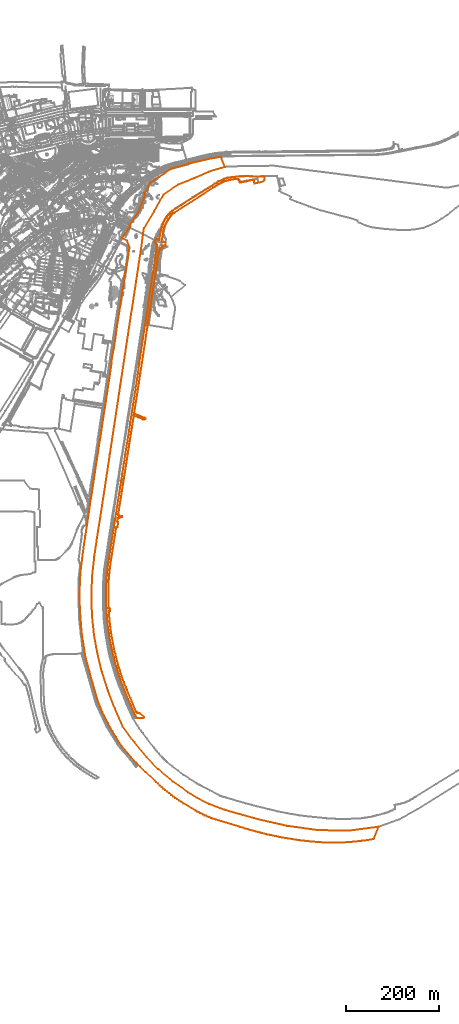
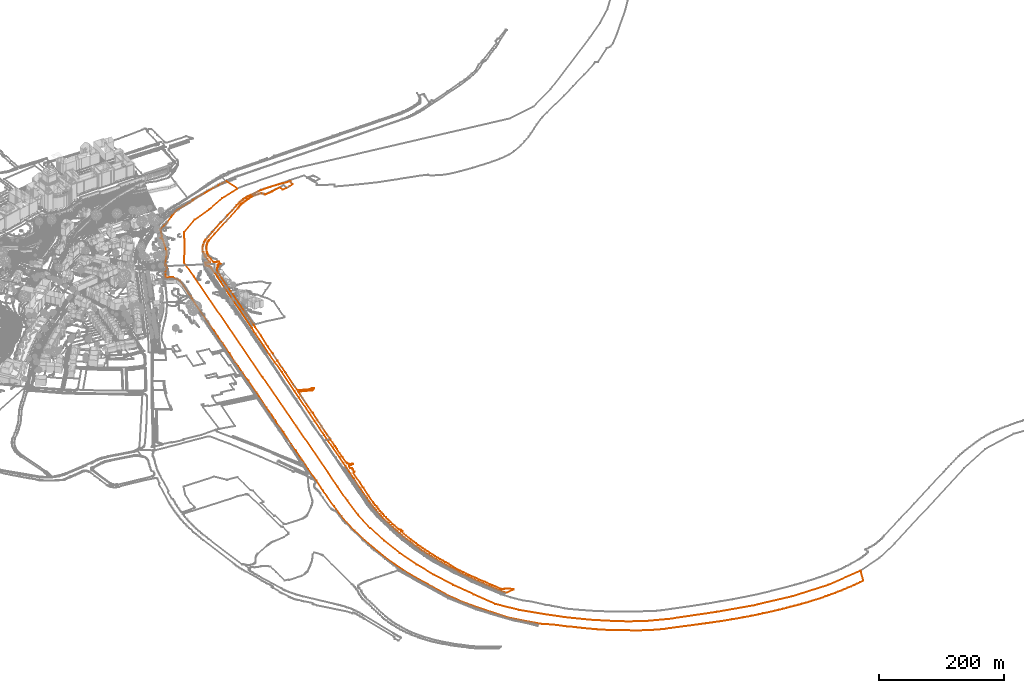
# Not in any storey, part 196 of 477: 1 civil element, 1 geographic element.
"""IFC4 model written with IfcOpenShell, lengths in metres."""

import ifcopenshell
import ifcopenshell.guid

model = None  # the IFC model being written
_history = None  # IfcOwnerHistory: only IFC2X3 demands one
_inside = {}  # id of a spatial element -> (the spatial element, [elements in it])
_under = {}  # id of a project, library or spatial element -> (it, [spatial elements below it])
_declared = {}  # id of a project -> (the project, [libraries it declares])
_typed = {}  # id of a type object -> (the type object, [elements of that type])
_made_of = {}  # id of a material, layer set ... -> (it, [elements and type objects made of it])


def new_model(schema):
    """Start an empty IFC model of exactly this schema.

    Asked for "IFC4X3", IfcOpenShell would pick the latest addendum, in which some entities
    have other attributes; the version numbers below select the first issue.
    IFC2X3 requires an IfcOwnerHistory on every rooted entity: one is made here for all.
    """
    global model, _history
    if schema == "IFC4X3":
        model = ifcopenshell.file(schema_version=(4, 3, 0, 0))
    else:
        model = ifcopenshell.file(schema=schema)
    _inside.clear()
    _under.clear()
    _declared.clear()
    _typed.clear()
    _made_of.clear()
    _history = None
    if model.schema == "IFC2X3":
        org = make("IfcOrganization", Name="unknown")
        user = make(
            "IfcPersonAndOrganization",
            ThePerson=make("IfcPerson", FamilyName="unknown"),
            TheOrganization=org,
        )
        app = make(
            "IfcApplication",
            ApplicationDeveloper=org,
            Version="unknown",
            ApplicationFullName="unknown",
            ApplicationIdentifier="unknown",
        )
        _history = make(
            "IfcOwnerHistory",
            OwningUser=user,
            OwningApplication=app,
            ChangeAction="ADDED",
            CreationDate=0,
        )
    return model


def make(cls, **values):
    """One entity of the class cls with the attributes given. An attribute that is None is left unset."""
    return model.create_entity(
        cls, **{name: value for name, value in values.items() if value is not None}
    )


def entity(cls, *values):
    """Any entity or typed value of the class cls, its attributes in the order of the schema. None: left unset."""
    e = model.create_entity(cls)
    for i, value in enumerate(values):
        if value is not None:
            e[i] = value
    return e


def rooted(cls, **values):
    """An entity with a GlobalId (a new one), such as an element, a storey or a relation."""
    return make(cls, GlobalId=ifcopenshell.guid.new(), OwnerHistory=_history, **values)


def si_unit(unit_type, name, prefix=None):
    """IfcSIUnit, for example si_unit("LENGTHUNIT", "METRE", prefix="MILLI")."""
    return make("IfcSIUnit", UnitType=unit_type, Prefix=prefix, Name=name)


def assignment(units):
    """IfcUnitAssignment: the units of a project."""
    return None if units is None else make("IfcUnitAssignment", Units=units)


def point(xyz):
    """IfcCartesianPoint."""
    return None if xyz is None else make("IfcCartesianPoint", Coordinates=xyz)


def direction(xyz):
    """IfcDirection."""
    return None if xyz is None else make("IfcDirection", DirectionRatios=xyz)


def frame(location, z_axis=None, x_axis=None):
    """IfcAxis2Placement3D, a coordinate frame: its origin and axes. An axis left out is left unset."""
    return make(
        "IfcAxis2Placement3D",
        Location=point(location),
        Axis=direction(z_axis),
        RefDirection=direction(x_axis),
    )


def origin_with_axes():
    """The frame at (0, 0, 0) with the z axis (0, 0, 1) and the x axis (1, 0, 0) written out."""
    return frame((0.0, 0.0, 0.0), z_axis=(0.0, 0.0, 1.0), x_axis=(1.0, 0.0, 0.0))


def place(relative_to, where):
    """IfcLocalPlacement: puts the frame where relative to a parent placement (None: the world)."""
    return make(
        "IfcLocalPlacement", PlacementRelTo=relative_to, RelativePlacement=where
    )


def context(
    kind, dimensions, precision=None, world=None, true_north=None, identifier=None
):
    """IfcGeometricRepresentationContext, for example the 3D "Model" context."""
    return make(
        "IfcGeometricRepresentationContext",
        ContextIdentifier=identifier,
        ContextType=kind,
        CoordinateSpaceDimension=dimensions,
        Precision=precision,
        WorldCoordinateSystem=world,
        TrueNorth=true_north,
    )


def subcontext(parent, identifier, kind, view, scale=None):
    """IfcGeometricRepresentationSubContext, for example "Body" below "Model"."""
    return make(
        "IfcGeometricRepresentationSubContext",
        ContextIdentifier=identifier,
        ContextType=kind,
        ParentContext=parent,
        TargetScale=scale,
        TargetView=view,
    )


def project(units=None, contexts=None):
    """IfcProject with its units and contexts."""
    return rooted(
        "IfcProject",
        Name="project",
        RepresentationContexts=contexts,
        UnitsInContext=assignment(units),
    )


def spatial(cls, under=None, at=None, **own):
    """A site, building, storey or space (cls), placed at a placement, below another one or the project."""
    s = rooted(cls, ObjectPlacement=at, **own)
    if under is not None:
        _under.setdefault(under.id(), (under, []))[1].append(s)
    return s


def shape(context_of_items, identifier, shape_type, items):
    """IfcShapeRepresentation: the items that make up one representation, for example the "Body"."""
    return make(
        "IfcShapeRepresentation",
        ContextOfItems=context_of_items,
        RepresentationIdentifier=identifier,
        RepresentationType=shape_type,
        Items=items,
    )


def made_of(thing, what):
    """Note that an element or type object is made of a material, layer set ...; save() writes the relation."""
    if what is not None:
        _made_of.setdefault(what.id(), (what, []))[1].append(thing)
    return thing


def element(
    cls,
    number,
    at=None,
    inside=None,
    cuts=None,
    type_object=None,
    material=None,
    context=None,
    identifier="Body",
    shape_type=None,
    held_by="IfcProductDefinitionShape",
    body=None,
    shapes=None,
    **own,
):
    """One element of the class cls, such as IfcWall. Its Tag is "e" and its number.

    at: its placement. inside: the storey or other place that contains it. cuts: it is an
    opening in that element (IfcRelVoidsElement). A single representation is given by context,
    identifier, shape_type and body (its items); several are given by shapes. held_by: the class
    of the entity that holds the representations. save() writes the other relations.
    """
    e = rooted(cls, Tag="e%d" % number, ObjectPlacement=at, **own)
    if body is not None:
        shapes = [shape(context, identifier, shape_type, body)]
    if shapes is not None:
        e.Representation = make(held_by, Representations=shapes)
    if inside is not None:
        _inside.setdefault(inside.id(), (inside, []))[1].append(e)
    if cuts is not None:
        rooted(
            "IfcRelVoidsElement", RelatingBuildingElement=cuts, RelatedOpeningElement=e
        )
    if type_object is not None:
        _typed.setdefault(type_object.id(), (type_object, []))[1].append(e)
    return made_of(e, material)


def aggregate(whole, parts):
    """IfcRelAggregates: a whole, such as a stair, and the parts it consists of."""
    return rooted("IfcRelAggregates", RelatingObject=whole, RelatedObjects=parts)


def save(model, path):
    """Write the relations noted so far, then the file.

    IfcRelAggregates (storeys below a building ...), IfcRelContainedInSpatialStructure (elements
    in a storey), IfcRelDefinesByType, IfcRelAssociatesMaterial and IfcRelDeclares: one each for
    every whole, place, type object, material and project.
    """
    for whole, parts in _under.values():
        aggregate(whole, parts)
    for where, things in _inside.values():
        rooted(
            "IfcRelContainedInSpatialStructure",
            RelatedElements=things,
            RelatingStructure=where,
        )
    for kind, things in _typed.values():
        rooted("IfcRelDefinesByType", RelatedObjects=things, RelatingType=kind)
    for what, things in _made_of.values():
        rooted("IfcRelAssociatesMaterial", RelatedObjects=things, RelatingMaterial=what)
    for by, libraries in _declared.values():
        rooted("IfcRelDeclares", RelatingContext=by, RelatedDefinitions=libraries)
    model.write(path)


model = new_model("IFC4")

# Units and contexts
model_context = context("Model", 3, precision=1e-05, world=origin_with_axes())
body_context = subcontext(model_context, "Body", "Model", "MODEL_VIEW")
ifc_project = project(units=[si_unit("AREAUNIT", "SQUARE_METRE"), si_unit("LENGTHUNIT", "METRE")], contexts=[model_context])

# Sites
site_1_placement = place(None, origin_with_axes())
site_1 = spatial("IfcSite", under=ifc_project, at=site_1_placement, Name="Topoexport Site")
site_2_placement = place(site_1_placement, origin_with_axes())
site_2 = spatial("IfcSite", under=site_1, at=site_2_placement, Name="TPX_ROADS_OUTLINES")

# Civil element
civil_element_placement = place(site_2_placement, frame((573.5897320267, -619.0162839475, 501.997321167), z_axis=(0.0, 0.0, 1.0), x_axis=(1.0, 0.0, 0.0)))
element("IfcCivilElement", 1, at=civil_element_placement, inside=site_2, Name="Roads Outline 143", ObjectType="ROAD", context=body_context, shape_type="GeometricCurveSet", body=[
    entity("IfcGeometricCurveSet", [entity("IfcIndexedPolyCurve", entity("IfcCartesianPointList3D", [[0.0, 0.0, 0.0], [0.0410000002, 5.8499999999, -8.13293e-05], [0.1540000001, 11.7, -0.000305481], [0.341, 17.547, -0.0006764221], [0.6010000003, 23.392, -0.0008482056], [0.9339999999, 29.233, 0.007302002], [1.3399999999, 35.0689999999, 0.0172388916], [1.8190000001, 40.8999999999, 0.0158855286], [2.392, 46.7929999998, -0.002527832], [3.0249999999, 52.6809999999, -0.0312844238], [3.7179999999, 58.561, -0.0631298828], [4.5320000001, 64.8839999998, -0.0813634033], [5.415, 71.1969999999, -0.0836525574], [6.3680000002, 77.5, -0.0780847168], [9.7790000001, 99.273, -0.0294494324], [14.4390000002, 128.9029999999, 0.11870401], [16.8360000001, 144.0719999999, 0.165008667], [18.2570000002, 152.9009999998, 0.1617746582], [19.4530000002, 160.605, 0.1669836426], [20.1600000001, 165.361, 0.1602598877], [21.7719999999, 175.2929999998, 0.1550618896], [24.3990000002, 192.037, 0.3092662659], [28.9380000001, 220.986, -0.3852392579], [34.9050000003, 259.0859999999, -1.1995194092], [38.1949999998, 280.027, -1.1660679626], [41.4619999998, 300.9989999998, -1.1446589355], [45.094, 324.0759999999, -1.145413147], [52.3020000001, 370.0600000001, -1.1991660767], [55.2510000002, 389.075, -1.2270939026], [63.9700000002, 444.6509999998, -1.2458919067], [68.5819999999, 475.5319999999, -1.1728952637], [71.5929999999, 497.726, -1.1580406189], [75.5040000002, 523.4849999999, -1.212526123], [80.767, 558.3969999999, -0.9224345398], [83.0410000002, 573.48, 0.2556228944], [90.8939999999, 625.655, 0.6760860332], [95.2540000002, 654.5259999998, 0.6879911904], [103.3620000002, 708.2419999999, 1.2711830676], [105.4909999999, 722.203, 1.4434039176], [109.4199999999, 748.425, 2.109050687], [109.5150000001, 749.257, 2.1340103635], [109.5389999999, 750.094, 2.1757841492], [109.4890000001, 750.929, 2.2135582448], [109.3670000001, 751.7579999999, 2.2062970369], [109.1740000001, 752.5719999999, 2.2427853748], [108.9109999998, 753.3669999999, 2.2692409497], [108.5800000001, 754.1359999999, 2.2827326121], [108.1920000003, 754.8589999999, 2.3111848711], [107.7439999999, 755.5459999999, 2.3176727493], [107.2390000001, 756.193, 2.2955873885], [106.6809999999, 756.7949999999, 2.2956379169], [106.074, 757.3469999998, 2.3222207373], [105.4220000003, 757.845, 2.3560484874], [104.73, 758.2859999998, 2.3865372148], [104.2570000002, 758.5179999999, 2.4408798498], [107.8170000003, 765.692, 2.3844414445], [110.6239999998, 764.3019999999, 2.3350170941], [113.4560000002, 762.9649999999, 2.4197342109], [114.0219999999, 762.7039999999, 2.4177774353], [114.5899999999, 762.446, 2.4327546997], [114.9939999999, 764.9989999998, 2.4350567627], [116.3850000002, 773.7889999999, 1.9524562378], [117.682, 781.9889999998, 0.0037757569], [118.0890000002, 783.138, -0.3500135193], [118.8769999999, 785.6899999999, -0.9480174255], [119.7000000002, 788.23, -1.4650847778], [120.5589999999, 790.7589999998, -1.4423878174], [122.909, 797.149, -1.2785430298], [121.8990000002, 797.5589999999, -1.2556331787], [122.7570000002, 799.527, -1.1939007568], [123.6740000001, 801.4679999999, -1.16485849], [124.6490000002, 803.3799999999, -1.1405163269], [125.7409999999, 805.371, -1.0775633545], [126.898, 807.325, -1.1036747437], [128.1189999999, 809.24, -1.1132006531], [129.2119999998, 810.8529999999, -1.1198261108], [130.3560000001, 812.4299999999, -1.1127552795], [131.5490000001, 813.97, -1.1029463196], [133.378, 816.1029999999, -1.1606710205], [135.2590000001, 818.1899999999, -1.2473023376], [136.6090000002, 819.632, -1.2739039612], [137.986, 821.0489999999, -1.3131595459], [139.389, 822.4399999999, -1.1958796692], [140.824, 823.811, -1.1896339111], [142.284, 825.1539999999, -1.2599082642], [143.77, 826.47, -1.2740369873], [151.5210000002, 831.456, -1.1886412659], [162.3840000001, 838.4639999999, -1.2325555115], [188.202, 855.1169999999, -0.9619796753], [207.8390000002, 867.0659999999, -1.0972337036], [220.3480000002, 875.0389999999, -1.1599669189], [234.156, 883.787, -1.0462805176], [238.6690000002, 886.5629999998, -1.1380288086], [241.5580000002, 888.1599999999, -1.1907799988], [244.4849999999, 889.689, -1.2410990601], [247.4470000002, 891.1469999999, -1.2731512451], [249.4870000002, 892.102, -1.2718339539], [251.5410000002, 893.024, -1.269273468], [253.6099999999, 893.9129999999, -1.2668046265], [255.602, 894.611, -1.2648662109], [257.6120000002, 895.2519999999, -1.2630860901], [259.6400000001, 895.8370000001, -1.2614614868], [261.6830000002, 896.365, -1.2599951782], [263.7400000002, 896.8359999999, -1.2592282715], [265.8310000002, 897.253, -1.2595845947], [267.9330000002, 897.6099999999, -1.2598896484], [270.0440000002, 897.909, -1.146895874], [283.5550000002, 899.189, -0.3240516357], [287.2260000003, 899.429, -0.1200867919], [290.8999999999, 899.621, 0.0430850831], [294.5759999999, 899.7649999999, 0.1246668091], [298.0300000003, 899.858, 0.1550603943], [301.4849999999, 899.909, 0.1717278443], [304.9410000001, 899.919, 0.1749959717], [320.9610000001, 899.5, -0.0597471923], [341.5800000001, 898.6869999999, -0.7506781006], [341.219, 895.588, -1.2621529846], [340.5989999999, 890.264, -1.2596468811], [333.9029999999, 887.1599999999, -1.1577455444], [319.4550000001, 884.5119999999, -1.070242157], [317.9989999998, 892.453, -1.2708591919], [303.2439999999, 889.7479999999, -1.2430022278], [303.338, 889.2339999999, -1.2261594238], [301.8330000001, 888.9679999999, -1.2174248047], [299.1239999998, 888.4889999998, -1.2016536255], [299.1499999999, 888.3399999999, -1.1967290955], [290.2209999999, 886.7919999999, -1.1455941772], [290.1940000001, 886.9399999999, -1.1504811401], [288.105, 886.5529999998, -1.1376983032], [287.6310000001, 889.1269999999, -1.222645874], [287.48, 889.7749999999, -1.2438731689], [287.2540000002, 890.3999999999, -1.264033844], [286.9569999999, 890.9949999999, -1.2731976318], [286.5929999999, 891.5519999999, -1.2730276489], [286.1660000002, 892.0619999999, -1.2719450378], [285.6830000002, 892.5189999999, -1.2706759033], [285.1499999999, 892.916, -1.2695733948], [284.6140000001, 893.2279999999, -1.2687069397], [284.0470000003, 893.48, -1.2680071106], [283.4560000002, 893.6679999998, -1.2674850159], [282.8480000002, 893.7919999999, -1.2671406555], [282.23, 893.848, -1.2669851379], [280.074, 893.7989999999, -1.2671212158], [277.9210000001, 893.689, -1.2674266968], [275.7719999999, 893.5179999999, -1.2679015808], [273.628, 893.2849999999, -1.268548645], [271.4920000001, 892.9919999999, -1.2693623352], [269.3650000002, 892.639, -1.2703426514], [267.2489999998, 892.2249999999, -1.2714923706], [265.0959999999, 891.7479999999, -1.2728170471], [262.9590000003, 891.206, -1.2731332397], [260.8399999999, 890.5989999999, -1.2704530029], [258.7400000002, 889.9269999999, -1.2487762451], [256.6609999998, 889.192, -1.2247802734], [254.6060000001, 888.3939999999, -1.1985138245], [252.2090000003, 887.4029999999, -1.1657694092], [249.8340000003, 886.3589999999, -1.131286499], [247.483, 885.263, -1.0950631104], [245.1570000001, 884.1139999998, -1.0570880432], [242.8569999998, 882.915, -1.0174604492], [240.5840000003, 881.6639999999, -1.0109006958], [238.068, 880.2, -1.0438580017], [235.5899999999, 878.6739999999, -1.0781799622], [233.1499999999, 877.0870000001, -1.1138922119], [230.75, 875.4399999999, -1.1509478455], [163.912, 832.6459999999, -1.1607576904], [147.3680000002, 822.0529999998, -1.2643203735], [146.2390000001, 821.189, -1.316645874], [145.1359999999, 820.291, -1.2924466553], [144.0600000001, 819.3599999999, -1.2704425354], [142.702, 818.098, -1.2446042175], [141.395, 816.784, -1.1942459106], [140.142, 815.419, -1.1261744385], [138.943, 814.004, -1.102297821], [137.8020000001, 812.544, -1.1121116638], [136.7200000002, 811.0389999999, -1.1191846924], [135.477, 809.321, -1.1136035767], [134.2880000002, 807.5659999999, -1.1048735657], [133.1540000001, 805.774, -1.0748396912], [132.0759999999, 803.9479999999, -1.1199644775], [131.0550000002, 802.0899999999, -1.1634091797], [130.0920000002, 800.2009999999, -1.1780250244], [129.1880000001, 798.2830000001, -1.2281279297], [128.344, 796.338, -1.335692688], [127.5600000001, 794.368, -1.4155076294], [126.7600000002, 792.3909999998, -1.4293311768], [126.0109999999, 790.395, -1.4462446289], [125.3119999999, 788.3799999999, -1.4648375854], [124.665, 786.3489999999, -1.145206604], [124.0699999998, 784.301, -0.5857870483], [123.588, 782.4839999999, -0.16734729], [123.148, 780.6569999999, 0.5161004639], [121.7630000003, 772.49, 2.0172010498], [119.648, 760.2689999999, 2.5392124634], [119.7999999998, 760.2069999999, 2.5414129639], [121.2710000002, 759.6369999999, 2.5594003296], [122.7570000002, 759.1099999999, 2.5544629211], [124.2590000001, 758.6269999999, 2.5519647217], [125.642, 758.2239999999, 2.5618035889], [127.0350000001, 757.8569999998, 2.5707635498], [128.4369999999, 757.5279999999, 2.5667911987], [128.0470000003, 750.4790000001, 2.3223831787], [126.929, 750.639, 2.3289310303], [125.8149999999, 750.8289999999, 2.3351682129], [125.1680000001, 750.9129999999, 2.3376958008], [124.5159999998, 750.932, 2.3382675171], [123.8659999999, 750.885, 2.3368532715], [123.2999999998, 750.7879999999, 2.3339345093], [122.7450000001, 750.6409999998, 2.3290128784], [122.2060000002, 750.4449999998, 2.3209917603], [121.8810000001, 750.2209999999, 2.3118247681], [121.5929999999, 749.953, 2.3008571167], [121.3459999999, 749.645, 2.2887741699], [121.1469999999, 749.3049999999, 2.2790830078], [121.0, 748.939, 2.2686507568], [120.9070000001, 748.5559999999, 2.2580857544], [120.8710000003, 748.159, 2.2478360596], [120.8930000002, 747.7619999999, 2.2375863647], [120.9730000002, 747.372, 2.2247007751], [121.1099999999, 746.9979999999, 2.2117007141], [121.301, 746.648, 2.199402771], [120.4539999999, 746.1879999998, 2.1818551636], [119.639, 745.675, 2.1624425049], [118.8569999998, 745.111, 2.1482943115], [118.1129999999, 744.4989999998, 2.1257875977], [117.409, 743.841, 2.0842409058], [116.747, 743.1399999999, 2.037007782], [116.1320000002, 742.399, 1.9905106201], [115.5419999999, 741.5859999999, 1.9396286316], [115.0070000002, 740.7349999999, 1.8323966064], [114.5290000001, 739.851, 1.8181842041], [114.1099999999, 738.9379999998, 1.7713930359], [113.753, 737.9989999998, 1.749824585], [113.4580000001, 737.0379999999, 1.7677796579], [112.9390000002, 733.5989999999, 1.5509626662], [111.514, 724.1439999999, 2.0616460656], [110.1920000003, 715.3599999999, 1.4687576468], [105.6639999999, 685.3639999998, 0.9172089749], [104.6970000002, 679.1369999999, 0.7988807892], [103.2579999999, 669.5989999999, 0.7444401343], [89.7140000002, 579.9009999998, 0.6971032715], [88.591, 572.4679999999, 0.7959167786], [84.8020000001, 547.3899999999, 0.8038508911], [80.372, 518.121, -1.0300216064], [77.3659999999, 498.24, -1.1571352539], [77.3190000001, 497.8689999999, -1.1585036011], [76.9369999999, 495.392, -1.169625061], [74.1409999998, 477.0989999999, -1.1983355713], [73.9569999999, 476.3689999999, -1.1967633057], [73.8280000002, 475.628, -1.1956610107], [73.7510000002, 475.135, -1.1950030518], [68.645, 442.2919999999, -1.1693777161], [60.3100000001, 388.8659999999, -1.1988422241], [70.929, 384.6539999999, -1.1361645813], [79.7829999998, 381.0209999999, -1.0580264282], [80.2149999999, 380.8699999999, -1.0374863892], [80.6639999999, 380.781, -0.9784326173], [81.1210000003, 380.754, -0.729975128], [81.577, 380.79, -0.4820613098], [82.0240000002, 380.889, -0.2661973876], [82.4530000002, 381.0489999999, -0.0596835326], [83.531, 380.365, 0.52638797], [85.2110000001, 378.5249999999, 0.8216872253], [83.8769999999, 377.4129999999, 0.6262721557], [83.2949999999, 377.121, 0.3959786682], [82.6830000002, 376.899, 0.0577986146], [82.0490000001, 376.7489999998, -0.2541627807], [81.4440000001, 376.676, -0.5543695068], [80.8340000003, 376.6699999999, -0.8860086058], [80.227, 376.7290000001, -1.0369158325], [79.6310000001, 376.8540000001, -1.065253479], [79.051, 377.0419999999, -1.0933220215], [70.176, 380.6429999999, -1.1213820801], [59.702, 384.9080000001, -1.2032767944], [58.378, 376.48, -1.2129336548], [50.0800000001, 323.379, -1.178107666], [49.6749999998, 320.811, -1.1742638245], [46.3620000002, 299.7949999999, -1.1597669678], [43.7820000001, 283.2759999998, -1.1347161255], [39.872, 258.486, -1.1550646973], [38.1099999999, 247.2120000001, -1.1666256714], [37.3769999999, 242.52, -1.172388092], [36.0279999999, 233.8899999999, -1.1878790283], [34.5490000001, 224.429, -1.202504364], [33.8670000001, 220.0659999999, -1.2032744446], [33.1129999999, 215.23, -1.1986029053], [31.2590000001, 203.3319999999, -1.1782372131], [29.3960000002, 191.3769999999, -0.603253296], [29.2859999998, 190.689, -0.5508918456], [26.3820000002, 172.48, 0.3594289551], [26.344, 172.004, 0.358730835], [26.3670000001, 171.5259999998, 0.3591533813], [26.452, 171.0559999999, 0.3607149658], [26.5980000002, 170.601, 0.362111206], [26.801, 170.1679999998, 0.3397346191], [26.8640000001, 170.0589999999, 0.3327901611], [26.9300000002, 169.9509999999, 0.3255150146], [27.057, 169.773, 0.3115158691], [27.2050000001, 169.612, 0.2952019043], [27.6180000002, 169.2489999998, 0.2388354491], [28.0720000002, 168.9379999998, 0.024720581], [28.5610000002, 168.6839999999, -0.2059009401], [29.0759999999, 168.4909999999, -0.4509290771], [29.6099999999, 168.361, -0.7051214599], [30.1570000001, 168.2959999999, -0.9655340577], [30.7069999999, 168.298, -1.1720548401], [34.574, 168.4609999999, -1.2024761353], [34.6180000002, 166.112, -1.2021820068], [30.9550000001, 165.8019999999, -1.174832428], [28.5150000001, 165.0419999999, -0.184206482], [28.4569999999, 165.1769999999, -0.1568526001], [27.6680000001, 164.79, 0.2152545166], [27.0329999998, 164.4479999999, 0.314161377], [26.423, 164.0619999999, 0.3601821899], [26.2779999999, 163.9609999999, 0.3575183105], [26.1350000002, 163.8569999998, 0.3548911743], [25.787, 163.564, 0.3484978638], [25.4789999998, 163.2290000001, 0.3427163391], [25.2149999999, 162.8589999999, 0.3375681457], [24.9989999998, 162.4579999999, 0.3333559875], [24.8340000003, 162.034, 0.3301383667], [24.7239999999, 161.5929999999, 0.3279932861], [23.8500000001, 156.98, 0.2625724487], [25.926, 155.291, 0.3510515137], [25.8280000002, 154.727, 0.3492510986], [25.5, 152.865, 0.3431258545], [25.4700000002, 152.561, 0.3425408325], [25.4870000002, 152.257, 0.342872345], [25.5499999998, 151.9579999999, 0.3441008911], [25.6570000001, 151.673, 0.3461095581], [25.6430000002, 151.443, 0.345852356], [24.5660000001, 144.5899999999, 0.3234700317], [23.8489999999, 144.6499999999, 0.2624873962], [23.4619999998, 144.645, 0.2350630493], [23.0830000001, 144.5659999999, 0.219344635], [22.727, 144.415, 0.2045801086], [22.406, 144.1979999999, 0.1890565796], [22.1329999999, 143.923, 0.1744184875], [21.9190000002, 143.601, 0.1629439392], [21.77, 143.2439999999, 0.1549546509], [21.7000000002, 142.9299999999, 0.151201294], [17.1189999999, 113.9239999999, 0.1629618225], [14.7859999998, 99.1699999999, 0.1251040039], [11.2280000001, 76.5919999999, 0.0355792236], [8.5699999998, 57.5649999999, -0.0839882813], [8.0329999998, 53.1909999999, -0.0857254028], [7.5410000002, 48.8119999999, -0.0866614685], [7.094, 44.4279999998, -0.0818733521], [6.6920000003, 40.04, -0.0775672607], [6.3020000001, 35.21, -0.0785741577], [5.966, 30.375, -0.0810658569], [5.6839999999, 25.5379999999, -0.0831571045], [5.4569999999, 20.6969999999, -0.0837051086], [5.2850000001, 15.8540000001, -0.0834898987], [5.128, 10.517, -0.083293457], [5.0260000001, 5.1779999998, -0.0831658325], [4.9789999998, -0.1610000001, -0.0831070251], [4.986, -5.5010000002, -0.0831157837], [5.0690000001, -11.3030000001, -0.083219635], [5.2230000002, -17.1030000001, -0.083412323], [5.4479999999, -22.9000000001, -0.0836938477], [5.7430000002, -28.6950000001, -0.082719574], [5.7800000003, -28.933, -0.0824451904], [5.8650000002, -29.159, -0.0818148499], [5.9930000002, -29.3630000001, -0.0808656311], [6.1600000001, -29.537, -0.0796271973], [6.6210000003, -29.9340000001, -0.0768067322], [6.8990000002, -30.1400000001, -0.0797845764], [7.202, -30.307, -0.0830302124], [7.5260000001, -30.4300000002, -0.0865007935], [8.5300000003, -30.733, -0.0841176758], [8.9109999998, -35.7180000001, -0.0688387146], [7.98, -35.5800000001, -0.0858968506], [7.6400000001, -35.567, -0.0869967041], [7.3059999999, -35.629, -0.0841442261], [6.9930000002, -35.7620000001, -0.0807914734], [6.7170000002, -35.96, -0.0778350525], [6.4900000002, -36.2140000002, -0.0771799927], [6.3250000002, -36.5110000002, -0.078403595], [6.2280000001, -36.8370000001, -0.0791229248], [6.2050000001, -37.176, -0.0792934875], [6.702, -43.8870000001, -0.0776743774], [7.2790000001, -50.591, -0.083855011], [7.9350000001, -57.2879999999, -0.0860424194], [8.6690000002, -63.976, -0.0801455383], [9.483, -70.656, -0.0421134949], [10.2420000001, -76.4480000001, -0.0106428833], [11.0649999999, -82.2320000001, 0.0273864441], [11.9530000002, -88.0060000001, 0.0698251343], [12.906, -93.7690000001, 0.1015343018], [13.923, -99.5220000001, 0.1129878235], [15.0270000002, -105.3660000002, 0.1308848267], [16.1949999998, -111.1970000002, 0.1579752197], [17.429, -117.0150000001, 0.160719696], [18.727, -122.818, 0.1635273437], [20.0899999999, -128.6070000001, 0.161161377], [21.5610000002, -134.5590000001, 0.1454538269], [23.1000000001, -140.4939999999, 0.2200496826], [24.7080000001, -146.4100000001, 0.3276812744], [26.3840000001, -152.308, 0.3594656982], [28.1269999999, -158.186, -0.0012184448], [29.9390000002, -164.0430000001, -0.8617498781], [31.818, -169.879, -1.1844909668], [33.9309999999, -176.1710000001, -1.203202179], [36.1189999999, -182.4370000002, -1.186782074], [38.3820000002, -188.6770000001, -1.1648410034], [40.4849999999, -194.28, -1.1510426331], [42.6499999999, -199.8600000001, -1.1370401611], [44.8739999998, -205.416, -1.1429760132], [52.4100000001, -222.7750000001, -1.2001911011], [58.3760000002, -236.7930000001, -1.2129482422], [64.7659999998, -251.7560000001, -1.2531779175], [65.0840000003, -252.4040000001, -1.2455404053], [65.4700000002, -253.013, -1.2362697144], [65.9199999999, -253.5760000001, -1.2220272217], [66.429, -254.0870000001, -1.2045365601], [66.9909999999, -254.5390000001, -1.209329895], [67.594, -254.9240000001, -1.2242128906], [68.2340000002, -255.2420000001, -1.1909707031], [68.906, -255.4880000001, -1.1546980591], [69.6000000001, -255.6610000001, -1.116442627], [70.3080000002, -255.757, -1.1225140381], [71.023, -255.7760000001, -1.1392655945], [71.736, -255.7169999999, -1.1619289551], [81.432, -263.5800000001, -0.5608935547], [81.5109999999, -264.6100000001, -0.517943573], [81.608, -265.638, -0.4664532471], [66.764, -266.4399999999, -1.2035523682], [63.8190000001, -261.1629999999, -1.2430671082], [60.452, -253.9480000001, -1.1978065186], [57.1439999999, -246.706, -1.221934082], [53.8939999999, -239.4370000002, -1.2142358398], [50.7030000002, -232.1430000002, -1.1840170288], [47.571, -224.8230000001, -1.1627802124], [33.9339999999, -190.8540000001, -1.2031987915], [31.568, -184.284, -1.181697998], [29.2609999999, -177.6940000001, -0.5389915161], [27.0150000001, -171.0820000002, 0.3161455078], [25.1690000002, -165.351, 0.3366711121], [23.3880000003, -159.6000000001, 0.2319940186], [21.6710000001, -153.8300000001, 0.1496463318], [20.0189999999, -148.04, 0.1620757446], [18.432, -142.233, 0.1623514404], [16.9100000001, -136.4080000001, 0.1644734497], [15.4530000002, -130.5660000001, 0.1411032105], [14.0290000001, -124.5590000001, 0.1141620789], [12.676, -118.5350000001, 0.0989232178], [11.392, -112.497, 0.0438222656], [10.1779999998, -106.4440000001, -0.0132424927], [9.0350000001, -100.3770000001, -0.0630451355], [8.0109999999, -94.5930000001, -0.0857965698], [7.0499999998, -88.798, -0.0814020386], [6.1520000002, -82.993, -0.0796865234], [5.3190000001, -77.1780000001, -0.0835324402], [4.5490000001, -71.355, -0.0817442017], [3.736, -64.706, -0.0635330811], [3.0019999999, -58.0490000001, -0.030102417], [2.3470000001, -51.3830000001, -0.0010817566], [1.7710000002, -44.71, 0.017428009], [1.2740000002, -38.03, 0.0156235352], [0.8810000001, -31.699, 0.0060048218], [0.5600000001, -25.3640000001, -0.0011108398], [0.3110000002, -19.0260000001, -0.0006169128], [0.1350000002, -12.6850000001, -0.0002677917], [0.031, -6.3430000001, -6.14929e-05], [0.0, 0.0, 0.0]]))]),
])

# Site
site_3_placement = place(site_1_placement, origin_with_axes())
site_3 = spatial("IfcSite", under=site_1, at=site_3_placement, Name="TPX_CADASTRES")

# Geographic element
geographic_element_placement = place(site_3_placement, frame((516.7617320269, -614.9692839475, 501.6874389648), z_axis=(0.0, 0.0, 1.0), x_axis=(1.0, 0.0, 0.0)))
element("IfcGeographicElement", 2, at=geographic_element_placement, inside=site_3, Name="Cadastre 138", PredefinedType="NOTDEFINED", context=body_context, shape_type="GeometricCurveSet", body=[
    entity("IfcGeometricCurveSet", [entity("IfcIndexedPolyCurve", entity("IfcCartesianPointList3D", [[0.0, 0.0, 0.0], [0.838, 25.5619999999, 0.0033283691], [2.0669999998, 45.0629999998, 0.0272611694], [5.5669999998, 74.385, 0.059591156], [9.4179999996, 103.0769999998, 0.0892207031], [12.2189999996, 121.4479999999, 0.1168389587], [16.7889999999, 150.3299999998, 0.1004965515], [21.6499999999, 184.743, 0.1924244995], [26.8609999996, 217.605, 0.2611296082], [30.0519999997, 238.5059999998, 0.2967636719], [32.8819999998, 258.6369999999, 0.2822633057], [38.4029999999, 293.1599999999, 0.2974407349], [43.2139999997, 325.402, 0.3080638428], [43.8839999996, 329.4919999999, 0.2904741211], [46.014, 342.223, 0.2929177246], [49.5249999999, 366.8739999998, 0.2774681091], [56.4159999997, 409.6769999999, 0.3106994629], [61.6269999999, 445.5499999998, 0.2270003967], [65.3979999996, 470.281, 0.2258939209], [68.108, 488.8319999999, 0.3480750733], [69.3979999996, 503.263, 0.4070098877], [73.8789999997, 526.585, 0.4733358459], [78.2999999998, 556.3869999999, 0.4561861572], [81.0, 575.9679999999, 0.5998415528], [83.7009999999, 592.919, 0.6416802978], [96.4959999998, 675.7609999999, -0.8063687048], [97.8659999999, 686.2509999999, -0.4155752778], [100.105, 695.6709999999, -0.9786041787], [107.4129999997, 742.824, -0.8041699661], [102.2929999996, 757.3049999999, -0.8769944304], [91.574, 762.754, -0.9564251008], [98.8829999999, 774.8859999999, -0.2053666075], [104.5129999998, 781.247, -0.6625938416], [105.8529999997, 782.727, -0.671414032], [106.0229999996, 782.6369999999, -0.6741566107], [108.6519999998, 788.027, -0.7320720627], [108.4919999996, 788.0969999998, -0.7257302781], [108.6849999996, 788.6209999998, -0.7311574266], [108.804, 789.1669999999, -0.705588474], [108.8489999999, 789.7239999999, -0.6831299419], [108.8169999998, 790.2819999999, -0.7066341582], [108.71, 790.8299999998, -0.7174427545], [108.5289999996, 791.358, -0.693305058], [108.2779999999, 791.858, -0.2445165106], [107.9619999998, 792.318, 0.7458024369], [123.4409999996, 814.1909999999, -0.4045400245], [128.8899999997, 824.2019999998, -0.2567707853], [135.409, 840.503, -0.5460743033], [141.088, 856.5649999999, -0.6132377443], [138.6379999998, 859.845, 0.3239159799], [144.3079999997, 864.956, -0.4705012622], [151.727, 882.7179999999, -0.5197011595], [166.625, 891.3099999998, -0.7429899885], [181.824, 901.4309999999, 0.9077680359], [185.463, 904.0619999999, 0.8284685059], [196.9729999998, 912.3629999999, 1.0296829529], [233.5859999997, 921.611, 2.4759078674], [234.7059999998, 923.031, 2.5987887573], [280.4199999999, 933.7619999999, 4.7866918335], [291.0109999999, 935.602, 5.6275784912], [304.3219999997, 937.4619999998, 6.5335755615], [312.9739999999, 916.1189999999, 1.9626049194], [279.2709999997, 906.318, 0.8689830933], [247.6679999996, 892.3169999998, -0.9501157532], [212.0659999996, 878.118, -0.7002816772], [180.6649999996, 857.0179999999, -0.6983179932], [159.9669999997, 819.514, -0.9426781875], [138.27, 783.909, -0.9695934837], [132.4709999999, 741.706, -0.8282882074], [109.98, 593.3979999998, -0.8973339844], [87.4859999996, 445.078, -0.8616238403], [64.9919999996, 296.7689999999, 0.2245805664], [44.2589999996, 160.0699999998, 0.2789384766], [37.4579999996, 118.6669999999, 0.3097261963], [31.6569999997, 76.9639999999, 0.2883937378], [26.9559999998, 35.2619999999, 0.2612774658], [25.2559999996, -6.6410000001, 0.2185998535], [26.6569999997, -48.642, 0.2608121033], [30.9559999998, -90.5360000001, 0.2960571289], [38.46, -131.8330000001, 0.2961156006], [47.9639999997, -170.8320000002, 0.3016586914], [60.9689999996, -210.8300000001, 0.2372771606], [75.9729999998, -250.3300000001, 0.4753995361], [92.977, -288.53, -0.8765382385], [117.781, -322.3360000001, -0.8842701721], [144.5839999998, -354.3460000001, 1.0906721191], [168.4839999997, -379.7520000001, 2.1382069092], [200.0869999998, -406.5590000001, 2.1803588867], [233.7919999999, -430.365, 2.1803588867], [251.5949999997, -441.6680000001, 2.1803588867], [278.4979999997, -455.372, 2.1803588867], [310.5009999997, -467.578, 2.1803588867], [387.3079999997, -488.973, 2.1803588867], [446.3979999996, -502.3560000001, 2.1803588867], [513.3899999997, -511.5420000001, 2.1803588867], [578.9879999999, -512.635, 2.1803588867], [643.4519999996, -504.2170000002, 2.1803588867], [632.8619999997, -530.6670000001, 2.1803588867], [626.6299999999, -531.733, 2.1803588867], [620.3839999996, -532.72, 2.1803588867], [614.1269999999, -533.628, 2.1803588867], [607.8589999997, -534.4570000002, 2.1803588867], [601.5799999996, -535.2070000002, 2.1803588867], [595.2929999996, -535.8770000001, 2.1803588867], [589.0449999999, -536.4750000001, 2.1803588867], [582.7909999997, -536.993, 2.1803588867], [576.5299999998, -537.4310000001, 2.1803588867], [570.264, -537.79, 2.1803588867], [564.5569999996, -538.0630000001, 2.1803588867], [558.8469999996, -538.27, 2.1803588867], [553.1339999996, -538.4110000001, 2.1803588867], [547.4209999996, -538.4850000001, 2.1803588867], [541.3259999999, -538.4470000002, 2.1803588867], [535.233, -538.335, 2.1803588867], [529.1409999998, -538.149, 2.1803588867], [523.0519999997, -537.888, 2.1803588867], [516.301, -537.4330000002, 2.1803588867], [509.554, -536.9170000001, 2.1803588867], [502.8119999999, -536.3400000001, 2.1803588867], [496.0759999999, -535.703, 2.1803588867], [489.3419999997, -535.02, 2.1803588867], [482.6139999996, -534.2760000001, 2.1803588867], [475.8929999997, -533.4720000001, 2.1803588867], [469.1799999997, -532.608, 2.1803588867], [462.4549999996, -531.6460000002, 2.1803588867], [455.7379999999, -530.6230000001, 2.1803588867], [449.0319999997, -529.5390000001, 2.1803588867], [442.335, -528.3940000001, 2.1803588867], [435.8069999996, -527.2170000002, 2.1803588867], [429.2899999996, -525.9820000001, 2.1803588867], [422.784, -524.6900000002, 2.1803588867], [416.2889999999, -523.341, 2.1803588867], [409.9909999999, -521.9480000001, 2.1803588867], [403.7049999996, -520.5020000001, 2.1803588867], [397.4319999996, -519.0020000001, 2.1803588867], [391.1719999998, -517.4480000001, 2.1803588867], [385.2589999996, -515.9550000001, 2.1803588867], [379.358, -514.4130000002, 2.1803588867], [373.4709999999, -512.8230000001, 2.1803588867], [367.5959999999, -511.1850000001, 2.1803588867], [361.8989999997, -509.5620000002, 2.1803588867], [356.216, -507.8940000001, 2.1803588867], [350.5449999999, -506.1810000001, 2.1803588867], [344.889, -504.4230000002, 2.1803588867], [290.4249999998, -487.9650000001, 2.1803588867], [286.6469999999, -486.642, 2.1803588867], [282.8929999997, -485.2510000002, 2.1803588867], [279.1659999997, -483.7920000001, 2.1803588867], [275.4649999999, -482.2660000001, 2.1803588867], [271.7929999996, -480.672, 2.1803588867], [270.5959999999, -480.1400000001, 2.1803588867], [269.4029999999, -479.601, 2.1803588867], [266.0189999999, -478.007, 2.1803588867], [262.662, -476.3560000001, 2.1803588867], [259.3339999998, -474.648, 2.1803588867], [256.0349999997, -472.8840000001, 2.1803588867], [252.767, -471.0630000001, 2.1803588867], [249.5299999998, -469.1880000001, 2.1803588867], [223.6469999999, -453.9640000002, 2.1803588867], [219.1109999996, -451.064, 2.1803588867], [214.6169999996, -448.1000000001, 2.1803588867], [210.1659999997, -445.0730000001, 2.1803588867], [205.7579999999, -441.9820000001, 2.1803588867], [201.3939999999, -438.8300000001, 2.1803588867], [197.0159999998, -435.5590000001, 2.1803588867], [192.6859999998, -432.2250000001, 2.1803588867], [188.4049999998, -428.8300000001, 2.1803588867], [184.1719999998, -425.3730000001, 2.1803588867], [179.9899999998, -421.8560000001, 2.1803588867], [176.1319999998, -418.5310000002, 2.1803588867], [172.3189999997, -415.155, 2.1803588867], [168.551, -411.7270000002, 2.1406053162], [164.8299999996, -408.25, 2.0798087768], [161.156, -404.723, 1.3630059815], [142.0239999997, -386.5090000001, 1.1309152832], [130.2139999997, -374.5660000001, -0.8820081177], [121.3539999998, -365.5930000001, -0.9464109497], [91.801, -332.0320000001, -0.8890063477], [78.199, -311.166, 0.4571509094], [70.4369999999, -298.1740000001, 0.419391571], [60.9649999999, -280.9240000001, 0.2373667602], [49.2829999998, -258.0430000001, 0.279674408], [38.6699999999, -231.6340000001, 0.2905977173], [29.2059999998, -198.4950000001, 0.2828033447], [21.1429999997, -170.3560000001, 0.1804726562], [11.96, -134.4780000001, 0.1216367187], [4.6999999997, -87.8640000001, 0.0522998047], [2.031, -54.8590000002, 0.0259494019], [0.341, -26.3520000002, 0.0026016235], [0.0, 0.0, 0.0]]))]),
])

save(model, "model.ifc")
